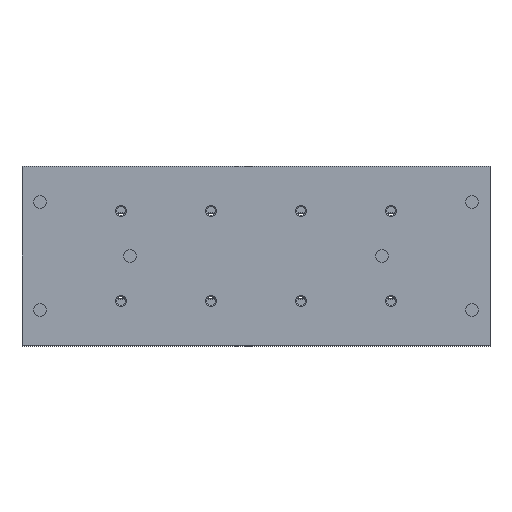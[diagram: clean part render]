
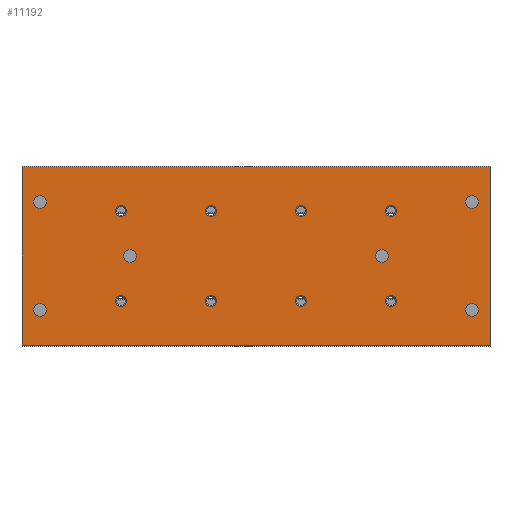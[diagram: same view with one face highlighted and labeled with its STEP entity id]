
A CAD part, front view. The second image highlights one B-rep face of the part: STEP entity #11192.
In plain terms, the highlighted planar face has unit normal (0, -1, 0).
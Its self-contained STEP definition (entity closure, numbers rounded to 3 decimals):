
#382=CIRCLE('',#11862,3.);
#383=CIRCLE('',#11863,3.);
#384=CIRCLE('',#11864,3.);
#385=CIRCLE('',#11865,3.);
#386=CIRCLE('',#11866,3.);
#387=CIRCLE('',#11867,3.);
#388=CIRCLE('',#11868,3.);
#389=CIRCLE('',#11869,3.);
#390=CIRCLE('',#11870,3.5);
#391=CIRCLE('',#11871,3.5);
#392=CIRCLE('',#11872,3.5);
#393=CIRCLE('',#11873,3.5);
#394=CIRCLE('',#11874,3.5);
#395=CIRCLE('',#11875,3.5);
#1160=ORIENTED_EDGE('',*,*,#4565,.F.);
#1161=ORIENTED_EDGE('',*,*,#4566,.F.);
#1162=ORIENTED_EDGE('',*,*,#4567,.F.);
#1163=ORIENTED_EDGE('',*,*,#4568,.F.);
#1164=ORIENTED_EDGE('',*,*,#4569,.F.);
#1165=ORIENTED_EDGE('',*,*,#4570,.F.);
#1166=ORIENTED_EDGE('',*,*,#4571,.F.);
#1167=ORIENTED_EDGE('',*,*,#4572,.F.);
#1168=ORIENTED_EDGE('',*,*,#4573,.F.);
#1169=ORIENTED_EDGE('',*,*,#4574,.F.);
#1170=ORIENTED_EDGE('',*,*,#4575,.T.);
#1171=ORIENTED_EDGE('',*,*,#4576,.F.);
#1172=ORIENTED_EDGE('',*,*,#4577,.F.);
#1173=ORIENTED_EDGE('',*,*,#4578,.F.);
#1174=ORIENTED_EDGE('',*,*,#4519,.T.);
#1175=ORIENTED_EDGE('',*,*,#4579,.F.);
#1176=ORIENTED_EDGE('',*,*,#4580,.F.);
#1177=ORIENTED_EDGE('',*,*,#4563,.T.);
#4519=EDGE_CURVE('',#6228,#6227,#7371,.T.);
#4563=EDGE_CURVE('',#6262,#6228,#7415,.T.);
#4565=EDGE_CURVE('',#6263,#6263,#382,.T.);
#4566=EDGE_CURVE('',#6264,#6264,#383,.T.);
#4567=EDGE_CURVE('',#6265,#6265,#384,.T.);
#4568=EDGE_CURVE('',#6266,#6266,#385,.T.);
#4569=EDGE_CURVE('',#6267,#6267,#386,.T.);
#4570=EDGE_CURVE('',#6268,#6268,#387,.T.);
#4571=EDGE_CURVE('',#6269,#6269,#388,.T.);
#4572=EDGE_CURVE('',#6270,#6270,#389,.T.);
#4573=EDGE_CURVE('',#6271,#6271,#390,.T.);
#4574=EDGE_CURVE('',#6272,#6272,#391,.T.);
#4575=EDGE_CURVE('',#6273,#6273,#392,.T.);
#4576=EDGE_CURVE('',#6274,#6274,#393,.T.);
#4577=EDGE_CURVE('',#6275,#6275,#394,.T.);
#4578=EDGE_CURVE('',#6276,#6276,#395,.T.);
#4579=EDGE_CURVE('',#6277,#6227,#7417,.T.);
#4580=EDGE_CURVE('',#6262,#6277,#7418,.T.);
#6227=VERTEX_POINT('',#16942);
#6228=VERTEX_POINT('',#16944);
#6262=VERTEX_POINT('',#17029);
#6263=VERTEX_POINT('',#17033);
#6264=VERTEX_POINT('',#17035);
#6265=VERTEX_POINT('',#17037);
#6266=VERTEX_POINT('',#17039);
#6267=VERTEX_POINT('',#17041);
#6268=VERTEX_POINT('',#17043);
#6269=VERTEX_POINT('',#17045);
#6270=VERTEX_POINT('',#17047);
#6271=VERTEX_POINT('',#17049);
#6272=VERTEX_POINT('',#17051);
#6273=VERTEX_POINT('',#17053);
#6274=VERTEX_POINT('',#17055);
#6275=VERTEX_POINT('',#17057);
#6276=VERTEX_POINT('',#17059);
#6277=VERTEX_POINT('',#17061);
#7371=LINE('',#16943,#8387);
#7415=LINE('',#17028,#8431);
#7417=LINE('',#17060,#8433);
#7418=LINE('',#17062,#8434);
#8387=VECTOR('',#13226,1000.);
#8431=VECTOR('',#13284,1000.);
#8433=VECTOR('',#13316,1000.);
#8434=VECTOR('',#13317,1000.);
#9385=EDGE_LOOP('',(#1160));
#9386=EDGE_LOOP('',(#1161));
#9387=EDGE_LOOP('',(#1162));
#9388=EDGE_LOOP('',(#1163));
#9389=EDGE_LOOP('',(#1164));
#9390=EDGE_LOOP('',(#1165));
#9391=EDGE_LOOP('',(#1166));
#9392=EDGE_LOOP('',(#1167));
#9393=EDGE_LOOP('',(#1168));
#9394=EDGE_LOOP('',(#1169));
#9395=EDGE_LOOP('',(#1170));
#9396=EDGE_LOOP('',(#1171));
#9397=EDGE_LOOP('',(#1172));
#9398=EDGE_LOOP('',(#1173));
#9399=EDGE_LOOP('',(#1174,#1175,#1176,#1177));
#10143=FACE_BOUND('',#9385,.T.);
#10144=FACE_BOUND('',#9386,.T.);
#10145=FACE_BOUND('',#9387,.T.);
#10146=FACE_BOUND('',#9388,.T.);
#10147=FACE_BOUND('',#9389,.T.);
#10148=FACE_BOUND('',#9390,.T.);
#10149=FACE_BOUND('',#9391,.T.);
#10150=FACE_BOUND('',#9392,.T.);
#10151=FACE_BOUND('',#9393,.T.);
#10152=FACE_BOUND('',#9394,.T.);
#10153=FACE_BOUND('',#9395,.T.);
#10154=FACE_BOUND('',#9396,.T.);
#10155=FACE_BOUND('',#9397,.T.);
#10156=FACE_BOUND('',#9398,.T.);
#10157=FACE_BOUND('',#9399,.T.);
#10901=PLANE('',#11861);
#11192=ADVANCED_FACE('',(#10143,#10144,#10145,#10146,#10147,#10148,#10149,
#10150,#10151,#10152,#10153,#10154,#10155,#10156,#10157),#10901,.F.);
#11861=AXIS2_PLACEMENT_3D('',#17031,#13286,#13287);
#11862=AXIS2_PLACEMENT_3D('',#17032,#13288,#13289);
#11863=AXIS2_PLACEMENT_3D('',#17034,#13290,#13291);
#11864=AXIS2_PLACEMENT_3D('',#17036,#13292,#13293);
#11865=AXIS2_PLACEMENT_3D('',#17038,#13294,#13295);
#11866=AXIS2_PLACEMENT_3D('',#17040,#13296,#13297);
#11867=AXIS2_PLACEMENT_3D('',#17042,#13298,#13299);
#11868=AXIS2_PLACEMENT_3D('',#17044,#13300,#13301);
#11869=AXIS2_PLACEMENT_3D('',#17046,#13302,#13303);
#11870=AXIS2_PLACEMENT_3D('',#17048,#13304,#13305);
#11871=AXIS2_PLACEMENT_3D('',#17050,#13306,#13307);
#11872=AXIS2_PLACEMENT_3D('',#17052,#13308,#13309);
#11873=AXIS2_PLACEMENT_3D('',#17054,#13310,#13311);
#11874=AXIS2_PLACEMENT_3D('',#17056,#13312,#13313);
#11875=AXIS2_PLACEMENT_3D('',#17058,#13314,#13315);
#13226=DIRECTION('',(0.,0.,-1.));
#13284=DIRECTION('',(-1.,0.,0.));
#13286=DIRECTION('',(0.,1.,0.));
#13287=DIRECTION('',(0.,0.,1.));
#13288=DIRECTION('',(0.,-1.,0.));
#13289=DIRECTION('',(0.,0.,-1.));
#13290=DIRECTION('',(0.,-1.,0.));
#13291=DIRECTION('',(0.,0.,-1.));
#13292=DIRECTION('',(0.,-1.,0.));
#13293=DIRECTION('',(0.,0.,-1.));
#13294=DIRECTION('',(0.,-1.,0.));
#13295=DIRECTION('',(0.,0.,-1.));
#13296=DIRECTION('',(0.,-1.,0.));
#13297=DIRECTION('',(0.,0.,-1.));
#13298=DIRECTION('',(0.,-1.,0.));
#13299=DIRECTION('',(0.,0.,-1.));
#13300=DIRECTION('',(0.,-1.,0.));
#13301=DIRECTION('',(0.,0.,-1.));
#13302=DIRECTION('',(0.,-1.,0.));
#13303=DIRECTION('',(0.,0.,-1.));
#13304=DIRECTION('',(0.,-1.,0.));
#13305=DIRECTION('',(0.,0.,-1.));
#13306=DIRECTION('',(0.,-1.,0.));
#13307=DIRECTION('',(0.,0.,-1.));
#13308=DIRECTION('',(0.,1.,0.));
#13309=DIRECTION('',(0.,0.,1.));
#13310=DIRECTION('',(0.,-1.,0.));
#13311=DIRECTION('',(0.,0.,-1.));
#13312=DIRECTION('',(0.,-1.,0.));
#13313=DIRECTION('',(0.,0.,-1.));
#13314=DIRECTION('',(0.,-1.,0.));
#13315=DIRECTION('',(0.,0.,-1.));
#13316=DIRECTION('',(-1.,0.,0.));
#13317=DIRECTION('',(0.,0.,-1.));
#16942=CARTESIAN_POINT('',(0.,0.,-49.7));
#16943=CARTESIAN_POINT('',(0.,0.,49.7));
#16944=CARTESIAN_POINT('',(0.,0.,49.7));
#17028=CARTESIAN_POINT('',(260.,0.,49.7));
#17029=CARTESIAN_POINT('',(260.,0.,49.7));
#17031=CARTESIAN_POINT('',(260.,0.,49.7));
#17032=CARTESIAN_POINT('',(55.,0.,-25.));
#17033=CARTESIAN_POINT('',(55.,0.,-28.));
#17034=CARTESIAN_POINT('',(55.,0.,25.));
#17035=CARTESIAN_POINT('',(55.,0.,22.));
#17036=CARTESIAN_POINT('',(205.,0.,-25.));
#17037=CARTESIAN_POINT('',(205.,0.,-28.));
#17038=CARTESIAN_POINT('',(205.,0.,25.));
#17039=CARTESIAN_POINT('',(205.,0.,22.));
#17040=CARTESIAN_POINT('',(155.,0.,-25.));
#17041=CARTESIAN_POINT('',(155.,0.,-28.));
#17042=CARTESIAN_POINT('',(155.,0.,25.));
#17043=CARTESIAN_POINT('',(155.,0.,22.));
#17044=CARTESIAN_POINT('',(105.,0.,-25.));
#17045=CARTESIAN_POINT('',(105.,0.,-28.));
#17046=CARTESIAN_POINT('',(105.,0.,25.));
#17047=CARTESIAN_POINT('',(105.,0.,22.));
#17048=CARTESIAN_POINT('',(200.,0.,0.));
#17049=CARTESIAN_POINT('',(200.,0.,-3.5));
#17050=CARTESIAN_POINT('',(60.,0.,0.));
#17051=CARTESIAN_POINT('',(60.,0.,-3.5));
#17052=CARTESIAN_POINT('',(250.,0.,30.));
#17053=CARTESIAN_POINT('',(250.,0.,33.5));
#17054=CARTESIAN_POINT('',(250.,0.,-30.));
#17055=CARTESIAN_POINT('',(250.,0.,-33.5));
#17056=CARTESIAN_POINT('',(10.,0.,-30.));
#17057=CARTESIAN_POINT('',(10.,0.,-33.5));
#17058=CARTESIAN_POINT('',(10.,0.,30.));
#17059=CARTESIAN_POINT('',(10.,0.,26.5));
#17060=CARTESIAN_POINT('',(260.,0.,-49.7));
#17061=CARTESIAN_POINT('',(260.,0.,-49.7));
#17062=CARTESIAN_POINT('',(260.,0.,49.7));
